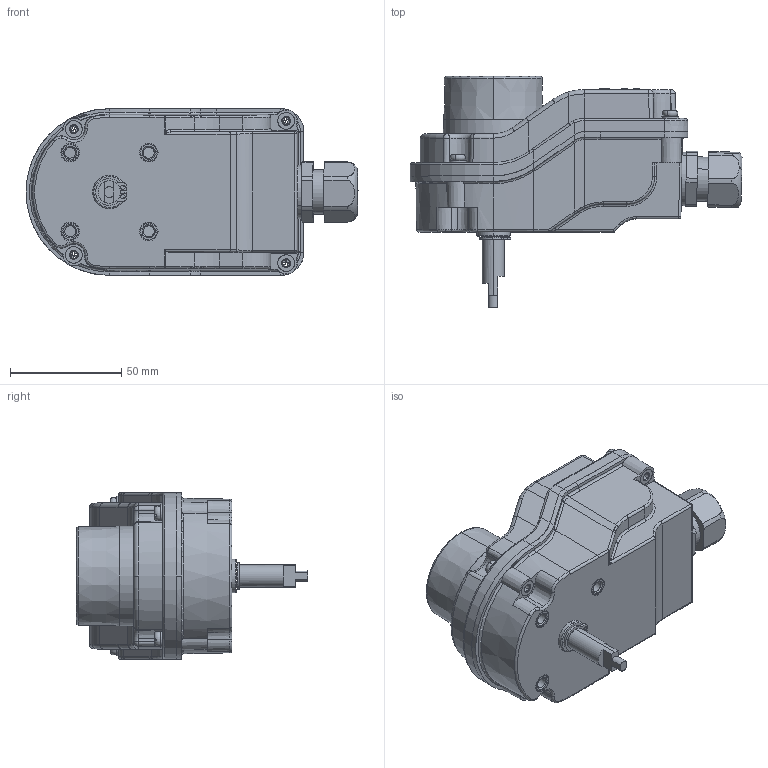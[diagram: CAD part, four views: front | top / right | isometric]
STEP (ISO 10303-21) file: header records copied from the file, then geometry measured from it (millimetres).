
FILE_DESCRIPTION (( 'STEP AP214' ), '1' );
FILE_NAME ('boitier LC7.STEP', '2020-04-15T08:44:36', ( '' ), ( '' ), 'SwSTEP 2.0', 'SolidWorks 2017', '' );
FILE_SCHEMA (( 'AUTOMOTIVE_DESIGN' ));
Length unit declared in the file: millimetre
Products named in the file (2): boitier LC7
Bounding box: 149.3 x 103.94 x 75 mm (x, y, z)
Surface area: 47782.5 mm2 (no closed solid volume)
Topology: 0 solids, 33 shells, 788 faces, 3079 edges, 2239 vertices
Faces by surface type: plane 367, bspline 158, cylinder 138, cone 59, torus 54, sphere 12
Entity records: 50023 total; most frequent: CARTESIAN_POINT 17899, ORIENTED_EDGE 4645, DIRECTION 4145, EDGE_CURVE 3078, VERTEX_POINT 2239, VECTOR 1741, LINE 1741, AXIS2_PLACEMENT_3D 1202
